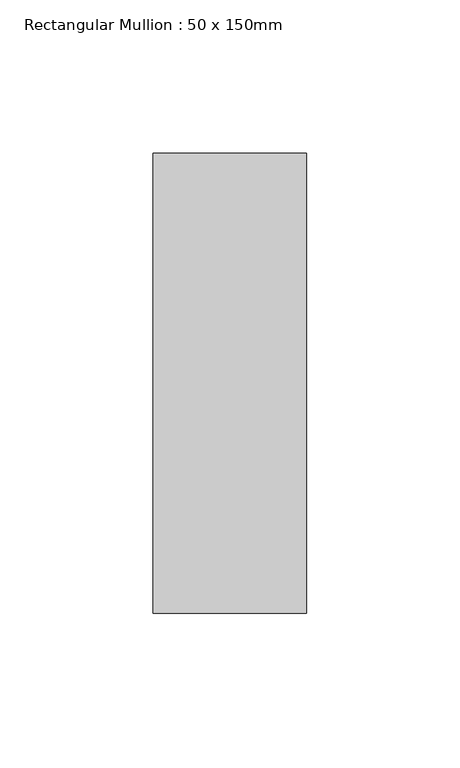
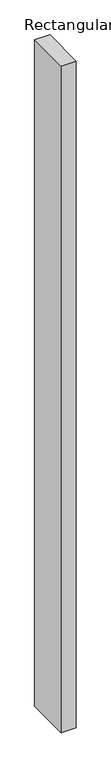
"""IFC4 building model written with IfcOpenShell, lengths in millimetres: member geometry, Rectangular Mullion : 50 x 150mm."""

from ifc_helpers import new_model, si_unit, frame, origin, place, context, project, spatial, polyline, outline, extrude, source, transform, mapped, element, save


def rectangular_mullion_50_x_150mm_6840e1ac(model_context):
    return source(origin(), model_context, "Body", "SweptSolid", [
        extrude(outline(polyline([(25.0, 75.0), (25.0, -75.0), (-25.0, -75.0), (-25.0, 75.0), (25.0, 75.0)])), frame((0.0, 0.0, -2321.545976), z_axis=(0.0, 0.0, 1.0), x_axis=(1.0, 0.0, 0.0)), (0.0, 0.0, 1.0), 2321.545976),
    ])


if __name__ == "__main__":
    model = new_model("IFC4")
    model_context = context("Model", 3, world=origin())
    ifc_project = project(units=[si_unit("LENGTHUNIT", "METRE", prefix="MILLI")], contexts=[model_context])
    site = spatial("IfcSite", under=ifc_project)
    building = spatial("IfcBuilding", under=site)
    placement = place(None, origin())
    rectangular_mullion_50_x_150mm_shape = rectangular_mullion_50_x_150mm_6840e1ac(model_context)
    element("IfcMember", 1, ObjectType="Rectangular Mullion : 50 x 150mm", at=placement, inside=building, context=model_context, shape_type="MappedRepresentation", body=[
        mapped(rectangular_mullion_50_x_150mm_shape, transform((0.0, 0.0, 0.0), x_axis=(1.0, 0.0, 0.0), y_axis=(0.0, 1.0, 0.0), z_axis=(0.0, 0.0, 1.0))),
    ])
    save(model, "model.ifc")
